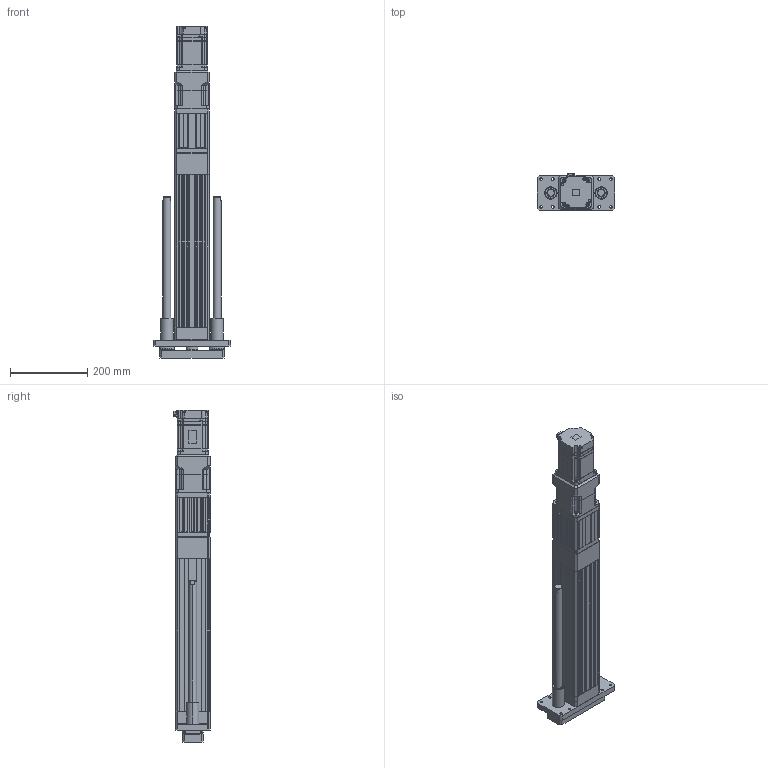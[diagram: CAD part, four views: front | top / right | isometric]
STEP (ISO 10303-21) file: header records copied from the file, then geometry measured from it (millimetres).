
FILE_DESCRIPTION (( 'STEP AP203' ), '1' );
FILE_NAME ('ANS090H-GS250-05(10)(25)-W75G05.STEP', '2019-03-18T01:56:51', ( 'user' ), ( '' ), 'SwSTEP 2.0', 'SolidWorks 2013', '' );
FILE_SCHEMA (( 'CONFIG_CONTROL_DESIGN' ));
Length unit declared in the file: millimetre
Products named in the file (5): ANS090H GS250 VER2; ANS090 ROD ST250-G; SGMJV_08A_A21; AB090-005-S1-P2[YASKAWA SGMJV08A]; ANS090H-GS250-05(10)(25)-W75G05
Assembly tree (4 placements, depth 2):
  ANS090H-GS250-05(10)(25)-W75G05
    ANS090H GS250 VER2
    ANS090 ROD ST250-G
    SGMJV_08A_A21
    AB090-005-S1-P2[YASKAWA SGMJV08A]
Bounding box: 200 x 93.8 x 858.1 mm (x, y, z)
Volume: 4003054.1 mm3; surface area: 752185.6 mm2
Topology: 3 solids, 14 shells, 1903 faces, 5056 edges, 3262 vertices
Faces by surface type: plane 1124, cylinder 581, cone 182, bspline 12, torus 4
Entity records: 59660 total; most frequent: CARTESIAN_POINT 11290, ORIENTED_EDGE 9984, DIRECTION 9947, EDGE_CURVE 5036, LINE 3517, VECTOR 3517, VERTEX_POINT 3262, AXIS2_PLACEMENT_3D 3215
